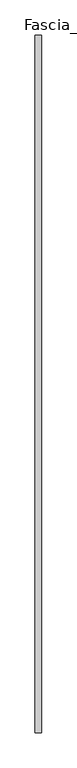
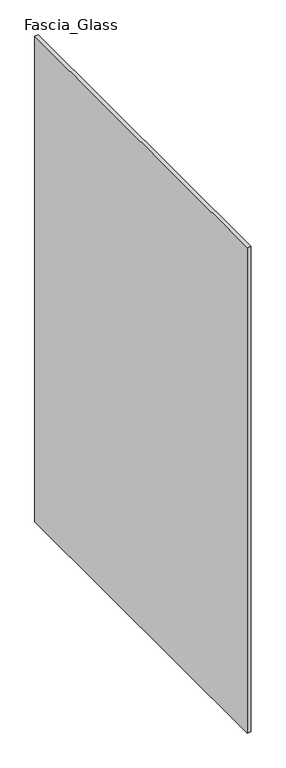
"""IFC4 building model written with IfcOpenShell, lengths in millimetres: railing geometry, Baluster-Excess-Fill-Straight-Panel-VIVA : Fascia_Glass."""

from ifc_helpers import new_model, si_unit, frame, origin, place, context, project, spatial, polyline, outline, extrude, source, transform, mapped, element, save


def fascia_glass_e3ba14f9(model_context):
    return source(origin(), model_context, "Body", "SweptSolid", [
        extrude(outline(polyline([(36.7665, 1.0851207), (27.2415, 1.0851207), (27.2415, 992.3349846), (36.7665, 992.3349846), (36.7665, 1.0851207)])), frame((0.0, 0.0, -304.927), z_axis=(0.0, 0.0, 1.0), x_axis=(1.0, 0.0, 0.0)), (0.0, 0.0, 1.0), 1379.728),
    ])


if __name__ == "__main__":
    model = new_model("IFC4")
    model_context = context("Model", 3, world=origin())
    ifc_project = project(units=[si_unit("LENGTHUNIT", "METRE", prefix="MILLI")], contexts=[model_context])
    site = spatial("IfcSite", under=ifc_project)
    building = spatial("IfcBuilding", under=site)
    placement = place(None, origin())
    fascia_glass_shape = fascia_glass_e3ba14f9(model_context)
    element("IfcRailing", 1, ObjectType="Baluster-Excess-Fill-Straight-Panel-VIVA : Fascia_Glass", at=placement, inside=building, context=model_context, shape_type="MappedRepresentation", body=[
        mapped(fascia_glass_shape, transform((0.0, 0.0, 0.0), x_axis=(1.0, 0.0, 0.0), y_axis=(0.0, 1.0, 0.0), z_axis=(0.0, 0.0, 1.0))),
    ])
    save(model, "model.ifc")
